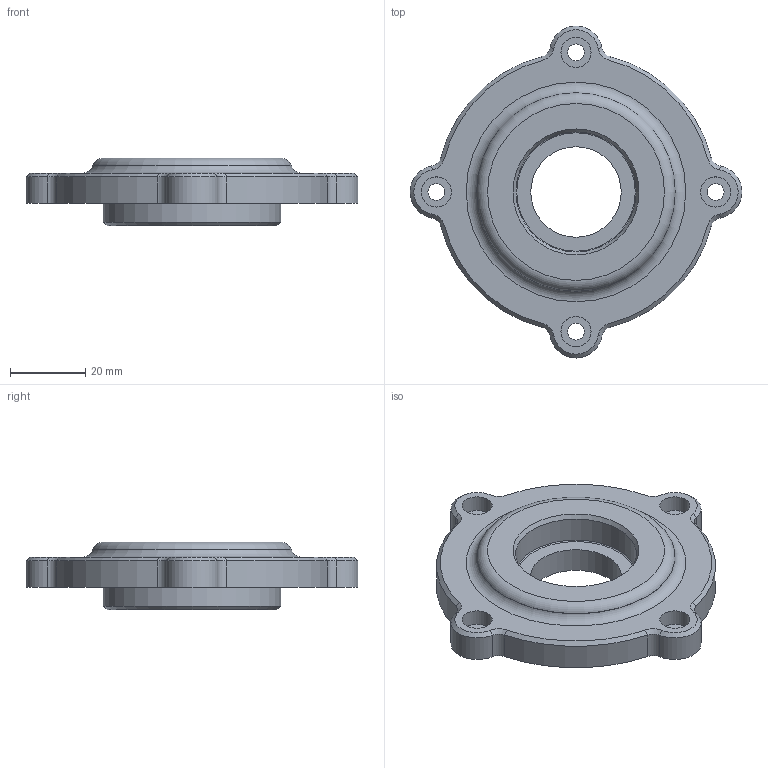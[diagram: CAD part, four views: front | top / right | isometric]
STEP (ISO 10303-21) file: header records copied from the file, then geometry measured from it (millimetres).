
FILE_DESCRIPTION(/* description */ (''),/* implementation_level */ '2;1');
FILE_NAME(/* name */ '',/* time_stamp */ '2024-08-02T13:50:10+09:00',/* author */ ('jhkim'),/* organization */ ('한국ATC센터'),/* preprocessor_version */ 'ST-DEVELOPER v20',/* originating_system */ 'Autodesk Inventor 2025',/* authorisation */ '');
FILE_SCHEMA (('AUTOMOTIVE_DESIGN { 1 0 10303 214 3 1 1 }'));
Length unit declared in the file: millimetre
Products named in the file (1): 앞커버
Bounding box: 88 x 88 x 18 mm (x, y, z)
Volume: 41145.1 mm3; surface area: 13410.9 mm2
Topology: 1 solids, 1 shells, 60 faces, 130 edges, 80 vertices
Faces by surface type: cylinder 27, cone 19, plane 10, torus 4
Full cylindrical faces by diameter (mm): 4.5 x4, 8 x4, 24 x1, 32 x1, 47 x1
Entity records: 1721 total; most frequent: DIRECTION 336, CARTESIAN_POINT 271, ORIENTED_EDGE 260, AXIS2_PLACEMENT_3D 145, EDGE_CURVE 130, CIRCLE 84, VERTEX_POINT 80, EDGE_LOOP 78
